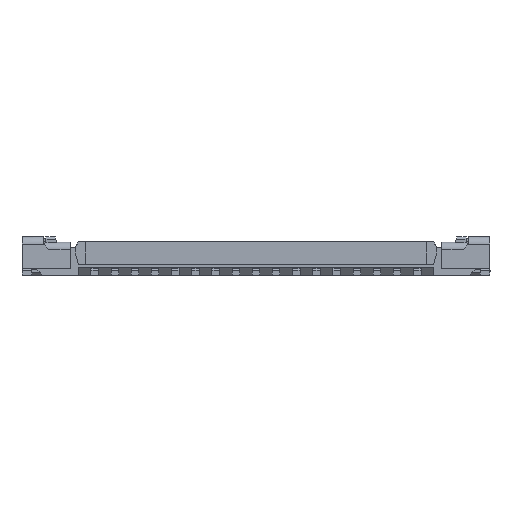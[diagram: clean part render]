
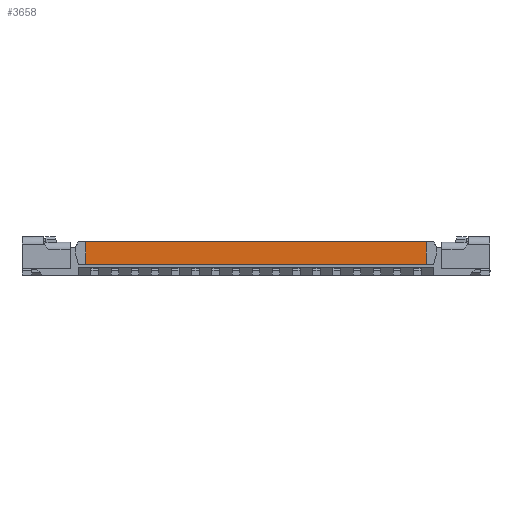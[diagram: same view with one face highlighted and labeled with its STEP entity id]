
A CAD part, top view. The second image highlights one B-rep face of the part: STEP entity #3658.
In plain terms, the highlighted planar face has unit normal (0, 0, 1).
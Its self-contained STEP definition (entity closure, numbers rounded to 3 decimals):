
#1577 = VECTOR ( 'NONE', #2249, 1000. ) ;
#1896 = DIRECTION ( 'NONE',  ( -1., 0., 0. ) ) ;
#2225 = CARTESIAN_POINT ( 'NONE',  ( 0.15, 0.19, 0.99 ) ) ;
#2249 = DIRECTION ( 'NONE',  ( -1., 0., 0. ) ) ;
#3013 = FACE_OUTER_BOUND ( 'NONE', #5887, .T. ) ;
#3150 = LINE ( 'NONE', #10498, #9627 ) ;
#3200 = DIRECTION ( 'NONE',  ( 0., 0., -1. ) ) ;
#3506 = DIRECTION ( 'NONE',  ( -1., 0., 0. ) ) ;
#3658 = ADVANCED_FACE ( 'NONE', ( #3013 ), #15949, .F. ) ;
#4892 = VECTOR ( 'NONE', #18090, 1000. ) ;
#5825 = VECTOR ( 'NONE', #6661, 1000. ) ;
#5887 = EDGE_LOOP ( 'NONE', ( #9230, #6900, #16447, #13307 ) ) ;
#5982 = CARTESIAN_POINT ( 'NONE',  ( -10.675, 0.17, 0.99 ) ) ;
#6661 = DIRECTION ( 'NONE',  ( 0., -1., 0. ) ) ;
#6900 = ORIENTED_EDGE ( 'NONE', *, *, #10741, .T. ) ;
#7981 = CARTESIAN_POINT ( 'NONE',  ( -5.75, 0.19, 0.99 ) ) ;
#8058 = LINE ( 'NONE', #13725, #5825 ) ;
#8832 = VERTEX_POINT ( 'NONE', #2225 ) ;
#8914 = CARTESIAN_POINT ( 'NONE',  ( 0.15, 0.58, 0.99 ) ) ;
#9064 = VERTEX_POINT ( 'NONE', #8914 ) ;
#9230 = ORIENTED_EDGE ( 'NONE', *, *, #16489, .T. ) ;
#9350 = CARTESIAN_POINT ( 'NONE',  ( -5.75, 0.58, 0.99 ) ) ;
#9534 = LINE ( 'NONE', #13819, #4892 ) ;
#9627 = VECTOR ( 'NONE', #3506, 1000. ) ;
#10498 = CARTESIAN_POINT ( 'NONE',  ( -10.675, 0.58, 0.99 ) ) ;
#10741 = EDGE_CURVE ( 'NONE', #15864, #17875, #9534, .T. ) ;
#10820 = LINE ( 'NONE', #13514, #1577 ) ;
#12639 = EDGE_CURVE ( 'NONE', #9064, #8832, #8058, .T. ) ;
#13307 = ORIENTED_EDGE ( 'NONE', *, *, #12639, .F. ) ;
#13514 = CARTESIAN_POINT ( 'NONE',  ( -11.025, 0.19, 0.99 ) ) ;
#13725 = CARTESIAN_POINT ( 'NONE',  ( 0.15, 0.19, 0.99 ) ) ;
#13819 = CARTESIAN_POINT ( 'NONE',  ( -5.75, 0.19, 0.99 ) ) ;
#15864 = VERTEX_POINT ( 'NONE', #9350 ) ;
#15949 = PLANE ( 'NONE',  #16618 ) ;
#16447 = ORIENTED_EDGE ( 'NONE', *, *, #17465, .F. ) ;
#16489 = EDGE_CURVE ( 'NONE', #9064, #15864, #3150, .T. ) ;
#16618 = AXIS2_PLACEMENT_3D ( 'NONE', #5982, #3200, #1896 ) ;
#17465 = EDGE_CURVE ( 'NONE', #8832, #17875, #10820, .T. ) ;
#17875 = VERTEX_POINT ( 'NONE', #7981 ) ;
#18090 = DIRECTION ( 'NONE',  ( 0., -1., 0. ) ) ;
